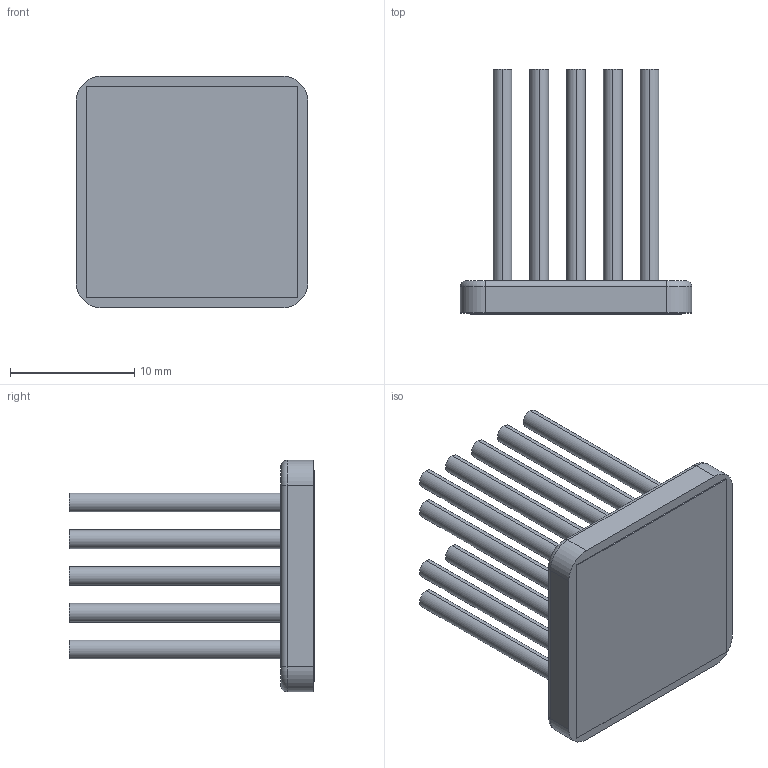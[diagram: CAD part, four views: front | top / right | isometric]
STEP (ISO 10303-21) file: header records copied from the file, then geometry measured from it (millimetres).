
FILE_DESCRIPTION (( 'STEP AP214' ), '1' );
FILE_NAME ('INM19002-20PCU-2.6.STEP', '2023-03-02T22:48:12', ( '' ), ( '' ), 'SwSTEP 2.0', 'SolidWorks 2020', '' );
FILE_SCHEMA (( 'AUTOMOTIVE_DESIGN' ));
Length unit declared in the file: millimetre
Products named in the file (1): INM19002-20PCU-2.6
Bounding box: 18.6 x 19.73 x 18.6 mm (x, y, z)
Volume: 1546.6 mm3; surface area: 3121.3 mm2
Topology: 2 solids, 2 shells, 87 faces, 178 edges, 116 vertices
Faces by surface type: cylinder 50, plane 33, torus 4
Entity records: 3332 total; most frequent: DIRECTION 458, CARTESIAN_POINT 382, ORIENTED_EDGE 356, AXIS2_PLACEMENT_3D 192, EDGE_CURVE 178, VERTEX_POINT 116, EDGE_LOOP 108, CIRCLE 104
